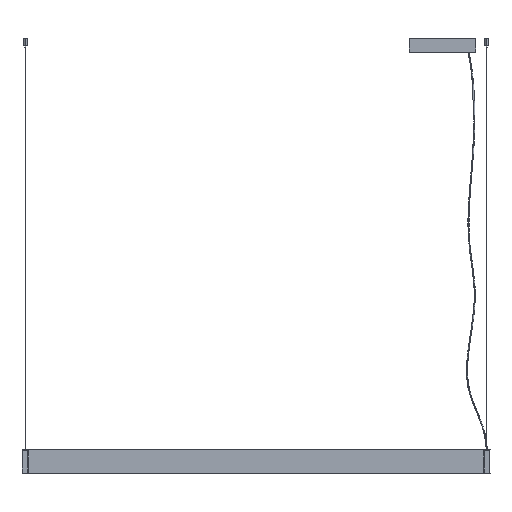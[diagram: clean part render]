
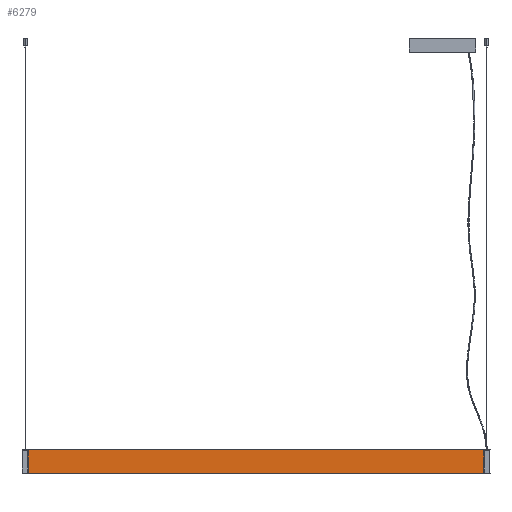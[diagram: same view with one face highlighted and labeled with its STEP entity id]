
A CAD part, top view. The second image highlights one B-rep face of the part: STEP entity #6279.
In plain terms, the highlighted planar face has unit normal (0, 0, 1).
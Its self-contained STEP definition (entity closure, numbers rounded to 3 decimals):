
#45 = CARTESIAN_POINT ( 'NONE',  ( 20., 0., 56. ) ) ;
#266 = DIRECTION ( 'NONE',  ( -1., 0., 0. ) ) ;
#414 = VERTEX_POINT ( 'NONE', #13662 ) ;
#493 = EDGE_CURVE ( 'NONE', #10968, #5065, #11985, .T. ) ;
#827 = VECTOR ( 'NONE', #266, 1000. ) ;
#1975 = CARTESIAN_POINT ( 'NONE',  ( 1730., 90., 56. ) ) ;
#2925 = CARTESIAN_POINT ( 'NONE',  ( 1730., 0., 56. ) ) ;
#3089 = CARTESIAN_POINT ( 'NONE',  ( 1730., 0., 56. ) ) ;
#3099 = VECTOR ( 'NONE', #9623, 1000. ) ;
#3538 = ORIENTED_EDGE ( 'NONE', *, *, #493, .T. ) ;
#4297 = DIRECTION ( 'NONE',  ( 0., 0., -1. ) ) ;
#5065 = VERTEX_POINT ( 'NONE', #14576 ) ;
#6122 = ORIENTED_EDGE ( 'NONE', *, *, #14636, .F. ) ;
#6268 = EDGE_CURVE ( 'NONE', #5065, #16848, #10270, .T. ) ;
#6279 = ADVANCED_FACE ( 'NONE', ( #13453 ), #10988, .F. ) ;
#8361 = EDGE_LOOP ( 'NONE', ( #16382, #6122, #9494, #3538 ) ) ;
#9494 = ORIENTED_EDGE ( 'NONE', *, *, #13429, .F. ) ;
#9623 = DIRECTION ( 'NONE',  ( 0., -1., 0. ) ) ;
#10270 = LINE ( 'NONE', #14978, #3099 ) ;
#10819 = CARTESIAN_POINT ( 'NONE',  ( 1730., 90., 56. ) ) ;
#10968 = VERTEX_POINT ( 'NONE', #1975 ) ;
#10988 = PLANE ( 'NONE',  #13638 ) ;
#11219 = LINE ( 'NONE', #3089, #14419 ) ;
#11985 = LINE ( 'NONE', #10819, #827 ) ;
#13321 = VECTOR ( 'NONE', #14877, 1000. ) ;
#13429 = EDGE_CURVE ( 'NONE', #10968, #414, #11219, .T. ) ;
#13453 = FACE_OUTER_BOUND ( 'NONE', #8361, .T. ) ;
#13514 = CARTESIAN_POINT ( 'NONE',  ( 1730., 0., 56. ) ) ;
#13638 = AXIS2_PLACEMENT_3D ( 'NONE', #2925, #4297, #13732 ) ;
#13662 = CARTESIAN_POINT ( 'NONE',  ( 1730., 0., 56. ) ) ;
#13732 = DIRECTION ( 'NONE',  ( 0., 1., 0. ) ) ;
#13884 = DIRECTION ( 'NONE',  ( 0., -1., 0. ) ) ;
#14419 = VECTOR ( 'NONE', #13884, 1000. ) ;
#14576 = CARTESIAN_POINT ( 'NONE',  ( 20., 90., 56. ) ) ;
#14636 = EDGE_CURVE ( 'NONE', #414, #16848, #16930, .T. ) ;
#14877 = DIRECTION ( 'NONE',  ( -1., 0., 0. ) ) ;
#14978 = CARTESIAN_POINT ( 'NONE',  ( 20., 0., 56. ) ) ;
#16382 = ORIENTED_EDGE ( 'NONE', *, *, #6268, .T. ) ;
#16848 = VERTEX_POINT ( 'NONE', #45 ) ;
#16930 = LINE ( 'NONE', #13514, #13321 ) ;
